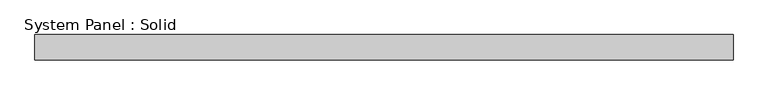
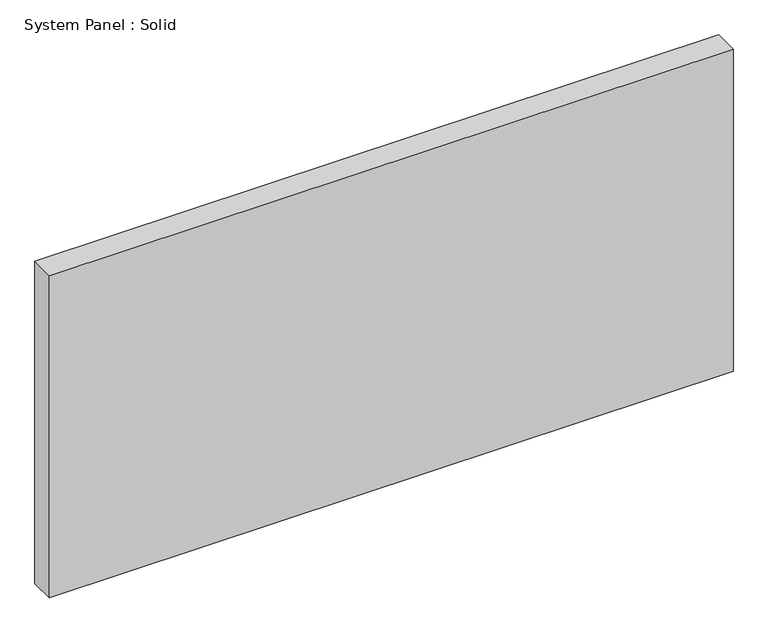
"""IFC4 building model written with IfcOpenShell, lengths in millimetres: plate geometry, System Panel : Solid."""

from ifc_helpers import new_model, si_unit, origin, origin_with_axes, place, context, project, spatial, polyline, outline, extrude, source, transform, mapped, element, save


def system_panel_solid_f679d4a3(model_context):
    return source(origin(), model_context, "Body", "SweptSolid", [
        extrude(outline(polyline([(876.1236512, -19.05), (-876.1236512, -19.05), (-876.1236512, 44.45), (876.1236512, 44.45), (876.1236512, -19.05)])), origin_with_axes(), (0.0, 0.0, 1.0), 873.1346896),
    ])


if __name__ == "__main__":
    model = new_model("IFC4")
    model_context = context("Model", 3, world=origin())
    ifc_project = project(units=[si_unit("LENGTHUNIT", "METRE", prefix="MILLI")], contexts=[model_context])
    site = spatial("IfcSite", under=ifc_project)
    building = spatial("IfcBuilding", under=site)
    placement = place(None, origin())
    system_panel_solid_shape = system_panel_solid_f679d4a3(model_context)
    element("IfcPlate", 1, ObjectType="System Panel : Solid", at=placement, inside=building, context=model_context, shape_type="MappedRepresentation", body=[
        mapped(system_panel_solid_shape, transform((0.0, 0.0, 0.0), x_axis=(1.0, 0.0, 0.0), y_axis=(0.0, 1.0, 0.0), z_axis=(0.0, 0.0, 1.0))),
    ])
    save(model, "model.ifc")
